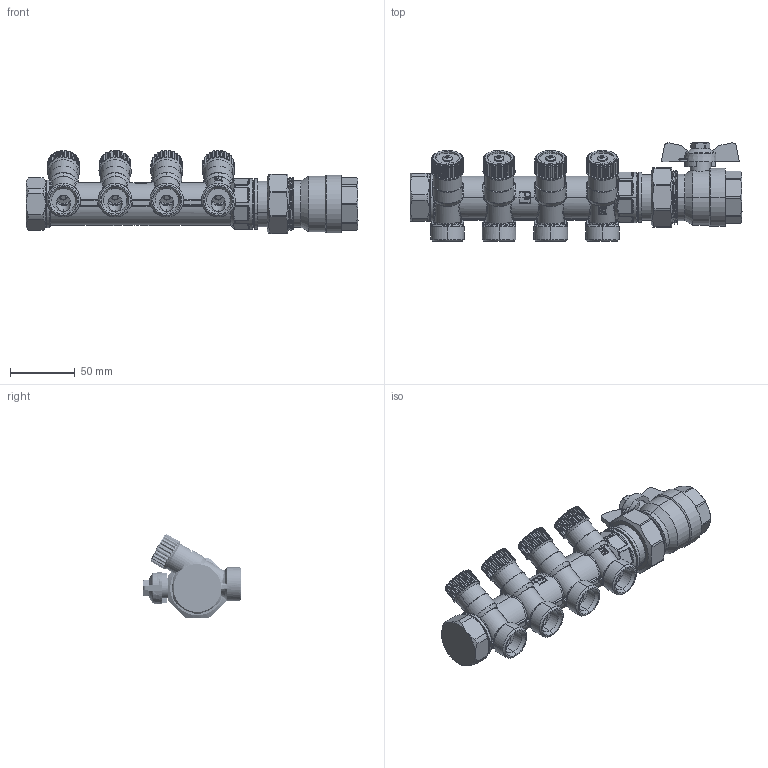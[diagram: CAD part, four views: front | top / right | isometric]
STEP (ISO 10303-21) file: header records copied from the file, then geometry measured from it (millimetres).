
FILE_DESCRIPTION (( 'STEP AP214' ), '1' );
FILE_NAME ('ADM213_Zestaw_podstawowy_rozdzielacza_do_wody_pitnej_2221300_0_3D_AFRISO.STEP', '2025-10-22T06:32:45', ( '' ), ( '' ), 'SwSTEP 2.0', 'SolidWorks 2024', '' );
FILE_SCHEMA (( 'AUTOMOTIVE_DESIGN' ));
Length unit declared in the file: millimetre
Products named in the file (25): Screw_1inch_ADM; 9346615; Ball_valve_1inch; raczka_ADM; OR Corpo Vitone_montato; 9446822; Corpo Vitone Coll; ring_screw_1_inch_ADM; Guarnizione piatta Otturatore; Nut1_1_4_ball_valve; 68513504FRLN; Asta vitone collettori; 68513504FR; Seeger a filo Vitone; Otturatore Vitone Coll G1; OR Asta; Nut_ADM_1_inch; 4761624; Ball_valve_ADM; ADM213_Zestaw_podstawowy_rozdzielacza_do_wody_pitnej_2221300_0_3D_AFRISO; 3424698; M8_ADM; Body_n_1_1_4_ball_valve; 68513504FRS; o_ring_ADM_1inch
Assembly tree (35 placements, depth 5):
  ADM213_Zestaw_podstawowy_rozdzielacza_do_wody_pitnej_2221300_0_3D_AFRISO
    Nut_ADM_1_inch
    Screw_1inch_ADM
      Nut1_1_4_ball_valve
      Body_n_1_1_4_ball_valve
      ring_screw_1_inch_ADM
      o_ring_ADM_1inch  x2
    Ball_valve_ADM
      Ball_valve_1inch
      raczka_ADM
      M8_ADM
    68513504FR
      68513504FRS
        9446822  x4
          Corpo Vitone Coll
          Otturatore Vitone Coll G1
          Asta vitone collettori
          Seeger a filo Vitone
          Guarnizione piatta Otturatore
          OR Asta
          OR Corpo Vitone_montato
        68513504FRLN
        9346615  x4
        4761624  x4
        3424698
Bounding box: 257.14 x 76.3 x 64.64 mm (x, y, z)
Volume: 183004.1 mm3; surface area: 137975.7 mm2
Topology: 53 solids, 53 shells, 4085 faces, 10398 edges, 6514 vertices
Faces by surface type: cylinder 1410, plane 1271, bspline 563, torus 442, cone 340, sphere 59
Entity records: 139316 total; most frequent: CARTESIAN_POINT 91748, ORIENTED_EDGE 10246, DIRECTION 8354, EDGE_CURVE 5123, AXIS2_PLACEMENT_3D 3391, VERTEX_POINT 3192, EDGE_LOOP 2137, ADVANCED_FACE 2029
